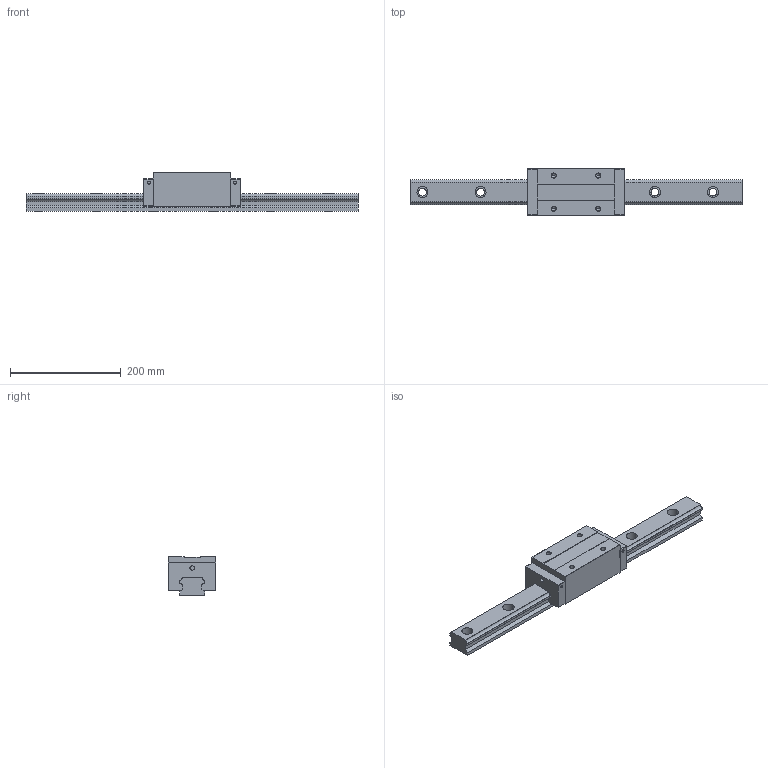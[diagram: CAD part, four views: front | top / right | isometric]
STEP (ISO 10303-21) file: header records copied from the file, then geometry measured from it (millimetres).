
FILE_DESCRIPTION (( 'STEP AP203' ), '1' );
FILE_NAME ('TRH45VE-XN.STEP', '2024-05-17T07:27:48', ( '' ), ( '' ), 'SwSTEP 2.0', 'SolidWorks 2022', '' );
FILE_SCHEMA (( 'CONFIG_CONTROL_DESIGN' ));
Length unit declared in the file: millimetre
Products named in the file (1): TRH45VE-XN
Bounding box: 600 x 85.5 x 70 mm (x, y, z)
Volume: 1423433.9 mm3; surface area: 177353.4 mm2
Topology: 2 solids, 2 shells, 180 faces, 472 edges, 304 vertices
Faces by surface type: plane 84, cylinder 80, cone 16
Entity records: 5607 total; most frequent: DIRECTION 994, CARTESIAN_POINT 949, ORIENTED_EDGE 928, EDGE_CURVE 464, AXIS2_PLACEMENT_3D 349, VERTEX_POINT 304, VECTOR 296, LINE 296
